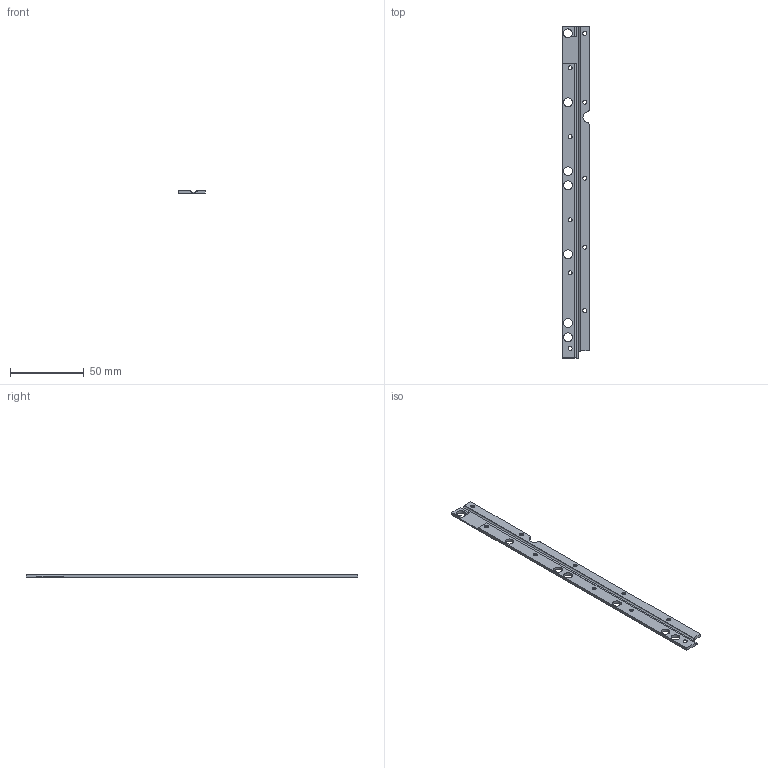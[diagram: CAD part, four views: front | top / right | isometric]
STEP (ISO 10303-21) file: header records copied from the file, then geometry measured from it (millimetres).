
FILE_DESCRIPTION(/* description */ (''),/* implementation_level */ '2;1');
FILE_NAME(/* name */ 'LAMINA#5specular.stp',/* time_stamp */ '2023-05-18T12:50:03+02:00',/* author */ (''),/* organization */ (''),/* preprocessor_version */ 'ST-DEVELOPER v18.102',/* originating_system */ 'SIEMENS PLM Software NX 2000',/* authorisation */ '');
FILE_SCHEMA (('AP203_CONFIGURATION_CONTROLLED_3D_DESIGN_OF_MECHANICAL_PARTS_AND_ASSEMBLIES_MIM_LF { 1 0 10303 403 2 1 2}'));
Length unit declared in the file: millimetre
Products named in the file (1): turc23EC399Budgd
Bounding box: 18 x 225.5 x 2 mm (x, y, z)
Volume: 6219.9 mm3; surface area: 9175.3 mm2
Topology: 1 solids, 1 shells, 52 faces, 163 edges, 107 vertices
Faces by surface type: cylinder 24, plane 18, cone 10
Full cylindrical faces by diameter (mm): 2.7 x10, 6 x7
Entity records: 1714 total; most frequent: DIRECTION 284, CARTESIAN_POINT 279, ORIENTED_EDGE 240, EDGE_CURVE 120, AXIS2_PLACEMENT_3D 112, EDGE_LOOP 107, VERTEX_POINT 91, FACE_BOUND 85
